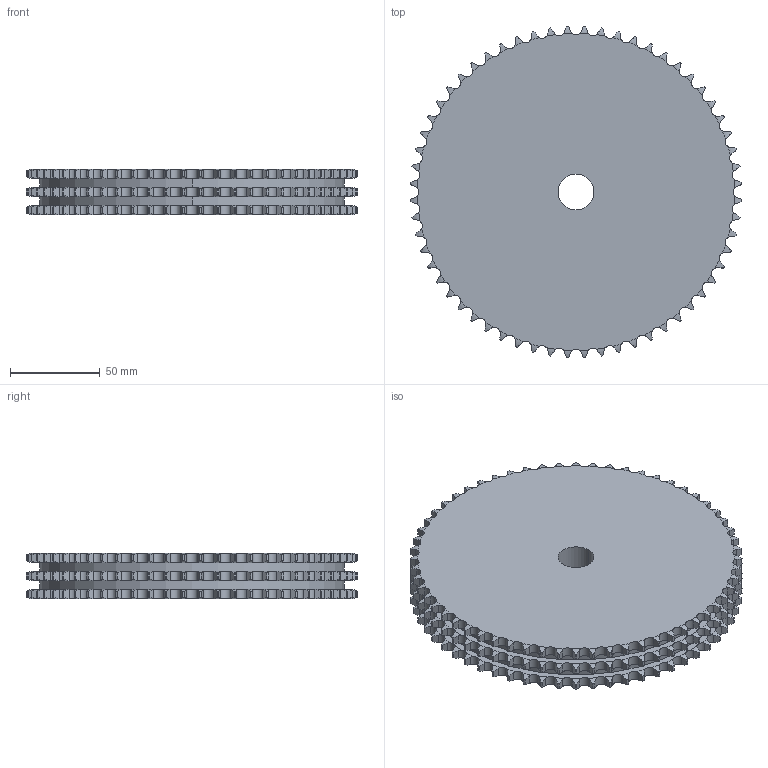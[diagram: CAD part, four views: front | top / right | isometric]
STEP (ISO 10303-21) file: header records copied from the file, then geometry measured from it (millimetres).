
FILE_DESCRIPTION((''),'2;1');
FILE_NAME('500-103-0060_PRT','2021-02-12T',('Brieden'),('Brieden'),'PRO/ENGINEER BY PARAMETRIC TECHNOLOGY CORPORATION, 2010160','PRO/ENGINEER BY PARAMETRIC TECHNOLOGY CORPORATION, 2010160','');
FILE_SCHEMA(('AUTOMOTIVE_DESIGN { 1 0 10303 214 1 1 1 1 }'));
Length unit declared in the file: millimetre
Products named in the file (1): 500-103-0060_PRT
Bounding box: 185.22 x 185.22 x 25.6 mm (x, y, z)
Volume: 612056.5 mm3; surface area: 79506.9 mm2
Topology: 1 solids, 1 shells, 1092 faces, 3258 edges, 2172 vertices
Faces by surface type: cylinder 726, torus 360, plane 6
Entity records: 53346 total; most frequent: CARTESIAN_POINT 15909, ORIENTED_EDGE 6516, DIRECTION 5094, PRESENTATION_STYLE_ASSIGNMENT 3259, STYLED_ITEM 3259, CURVE_STYLE 3258, EDGE_CURVE 3258, AXIS2_PLACEMENT_3D 2184
